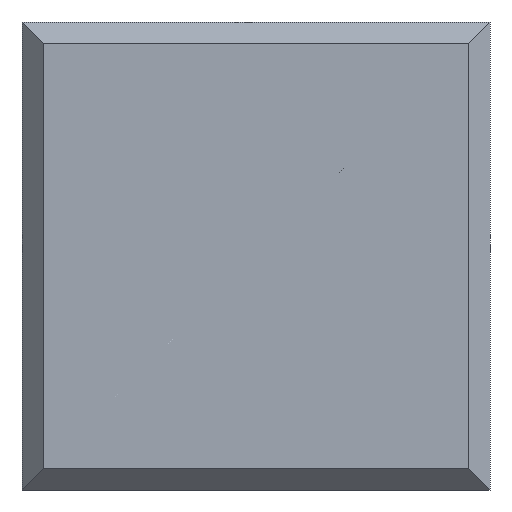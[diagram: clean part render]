
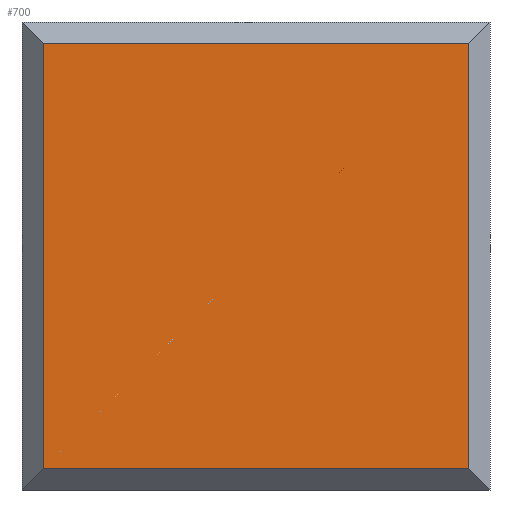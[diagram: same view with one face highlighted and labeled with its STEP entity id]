
A CAD part, front view. The second image highlights one B-rep face of the part: STEP entity #700.
In plain terms, the highlighted planar face has unit normal (0, -1, 0).
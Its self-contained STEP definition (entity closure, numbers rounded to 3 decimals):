
#80 = VERTEX_POINT ( 'NONE', #337 ) ;
#99 = VECTOR ( 'NONE', #233, 1000. ) ;
#176 = LINE ( 'NONE', #505, #541 ) ;
#186 = CARTESIAN_POINT ( 'NONE',  ( 10., -8., 11. ) ) ;
#205 = ORIENTED_EDGE ( 'NONE', *, *, #536, .F. ) ;
#233 = DIRECTION ( 'NONE',  ( 0., 0., -1. ) ) ;
#256 = ORIENTED_EDGE ( 'NONE', *, *, #716, .F. ) ;
#257 = ORIENTED_EDGE ( 'NONE', *, *, #491, .F. ) ;
#272 = VECTOR ( 'NONE', #582, 1000. ) ;
#297 = FACE_OUTER_BOUND ( 'NONE', #435, .T. ) ;
#300 = VERTEX_POINT ( 'NONE', #444 ) ;
#336 = CARTESIAN_POINT ( 'NONE',  ( 10., -8., 10. ) ) ;
#337 = CARTESIAN_POINT ( 'NONE',  ( -10., -8., -10. ) ) ;
#362 = LINE ( 'NONE', #186, #99 ) ;
#408 = EDGE_CURVE ( 'NONE', #300, #80, #176, .T. ) ;
#435 = EDGE_LOOP ( 'NONE', ( #205, #438, #256, #257 ) ) ;
#438 = ORIENTED_EDGE ( 'NONE', *, *, #408, .T. ) ;
#444 = CARTESIAN_POINT ( 'NONE',  ( -10., -8., 10. ) ) ;
#476 = DIRECTION ( 'NONE',  ( 0., 0., -1. ) ) ;
#479 = VECTOR ( 'NONE', #906, 1000. ) ;
#491 = EDGE_CURVE ( 'NONE', #812, #654, #362, .T. ) ;
#505 = CARTESIAN_POINT ( 'NONE',  ( -10., -8., 10. ) ) ;
#536 = EDGE_CURVE ( 'NONE', #300, #812, #658, .T. ) ;
#541 = VECTOR ( 'NONE', #476, 1000. ) ;
#582 = DIRECTION ( 'NONE',  ( -1., 0., 0. ) ) ;
#586 = DIRECTION ( 'NONE',  ( -1., 0., 0. ) ) ;
#595 = DIRECTION ( 'NONE',  ( 0., -1., 0. ) ) ;
#597 = CARTESIAN_POINT ( 'NONE',  ( 11., -8., -10. ) ) ;
#602 = PLANE ( 'NONE',  #802 ) ;
#627 = CARTESIAN_POINT ( 'NONE',  ( 10., -8., 10. ) ) ;
#650 = LINE ( 'NONE', #597, #272 ) ;
#654 = VERTEX_POINT ( 'NONE', #674 ) ;
#658 = LINE ( 'NONE', #901, #479 ) ;
#674 = CARTESIAN_POINT ( 'NONE',  ( 10., -8., -10. ) ) ;
#700 = ADVANCED_FACE ( 'NONE', ( #297 ), #602, .T. ) ;
#716 = EDGE_CURVE ( 'NONE', #654, #80, #650, .T. ) ;
#802 = AXIS2_PLACEMENT_3D ( 'NONE', #627, #595, #586 ) ;
#812 = VERTEX_POINT ( 'NONE', #336 ) ;
#901 = CARTESIAN_POINT ( 'NONE',  ( 11., -8., 10. ) ) ;
#906 = DIRECTION ( 'NONE',  ( 1., 0., 0. ) ) ;
